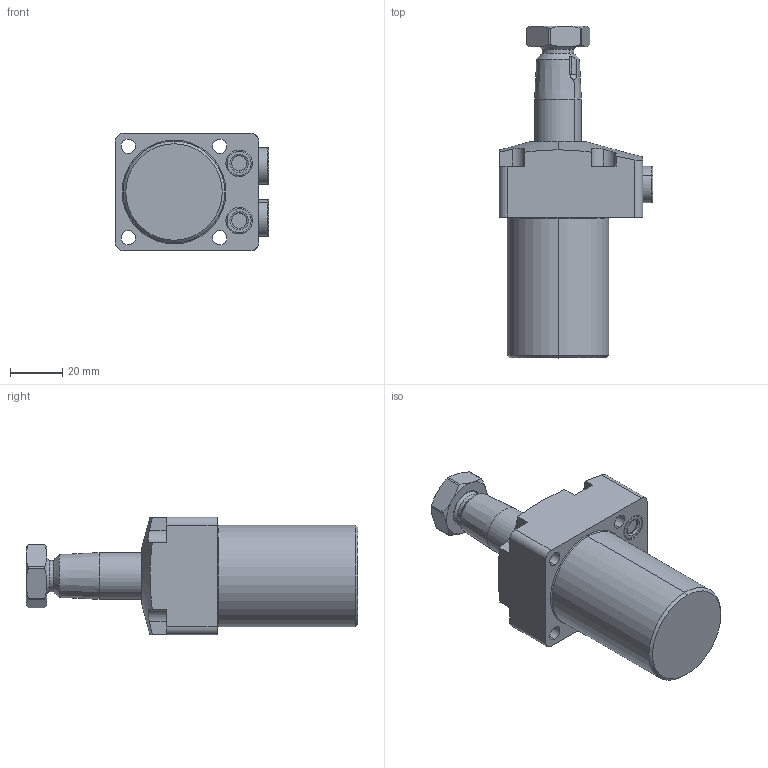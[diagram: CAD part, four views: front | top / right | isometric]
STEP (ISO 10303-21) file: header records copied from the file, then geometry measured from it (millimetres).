
FILE_DESCRIPTION(/* description */ (''),/* implementation_level */ '2;1');
FILE_NAME(/* name */ 'TRC02-LN45.stp',/* time_stamp */ '2025-01-04T09:45:42+08:00',/* author */ (''),/* organization */ (''),/* preprocessor_version */ 'ST-DEVELOPER v16.7',/* originating_system */ 'SIEMENS PLM Software NX 12.0',/* authorisation */ '');
FILE_SCHEMA (('AUTOMOTIVE_DESIGN { 1 0 10303 214 3 1 1 1 }'));
Length unit declared in the file: millimetre
Products named in the file (5): TRC02-LN45-03; TRC02-LN45-02; TRC02-LN45-01; TRC02-LN45-04; TRC02-LN45_stp
Assembly tree (5 placements, depth 2):
  TRC02-LN45_stp
    TRC02-LN45-04  x2
    TRC02-LN45-01
    TRC02-LN45-02
    TRC02-LN45-03
Bounding box: 58.8 x 127.3 x 45 mm (x, y, z)
Volume: 133880.8 mm3; surface area: 25512.4 mm2
Topology: 5 solids, 7 shells, 203 faces, 457 edges, 280 vertices
Faces by surface type: cylinder 73, plane 67, cone 40, torus 22, sphere 1
Entity records: 5354 total; most frequent: CARTESIAN_POINT 1094, DIRECTION 922, ORIENTED_EDGE 820, EDGE_CURVE 410, AXIS2_PLACEMENT_3D 378, VERTEX_POINT 252, EDGE_LOOP 206, CIRCLE 191
